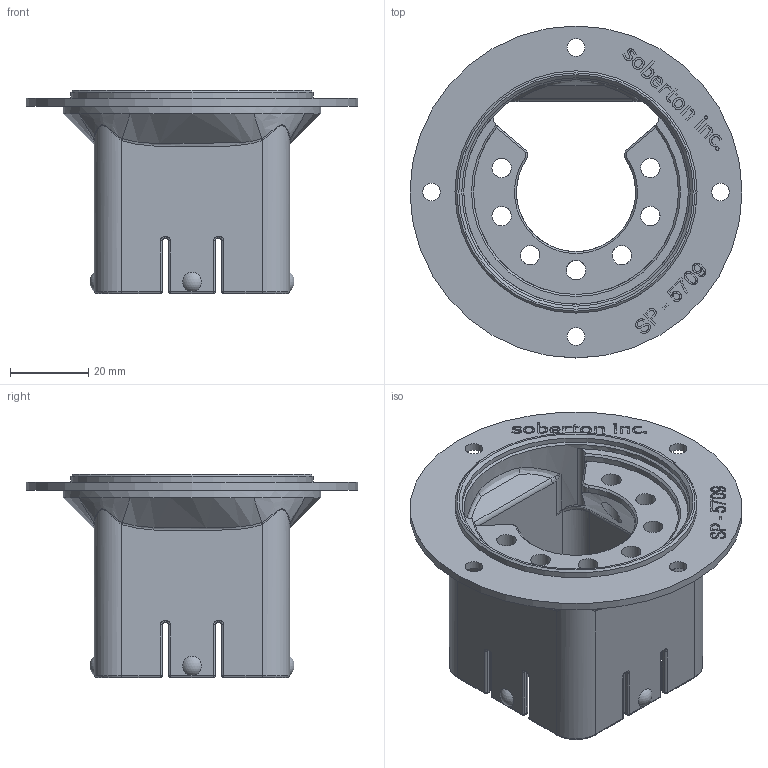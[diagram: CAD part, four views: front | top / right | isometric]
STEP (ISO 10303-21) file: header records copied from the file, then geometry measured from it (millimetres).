
FILE_DESCRIPTION(/* description */ ('Alibre Inc.'),/* implementation_level */ '2;1');
FILE_NAME(/* name */ 'export-377A5EF0-56CE-44FA-9FC2-389EE92E42DE',/* time_stamp */ '2020-09-30T17:52:55-05:00',/* author */ (''),/* organization */ (''),/* preprocessor_version */ 'ST-DEVELOPER v17',/* originating_system */ 'Alibre',/* authorisation */ '');
FILE_SCHEMA (('AUTOMOTIVE_DESIGN'));
Length unit declared in the file: millimetre
Bounding box: 85 x 85 x 52 mm (x, y, z)
Volume: 35921.9 mm3; surface area: 26957.2 mm2
Topology: 1 solids, 3 shells, 695 faces, 1836 edges, 1145 vertices
Faces by surface type: bspline 318, plane 162, cylinder 136, sphere 36, torus 36, cone 7
Full cylindrical faces by diameter (mm): 0.649 x1, 1.055 x1, 4.5 x4, 5 x7, 57.5 x1, 58.5 x1, 62 x1, 66 x1, 85 x1
Entity records: 33128 total; most frequent: CARTESIAN_POINT 18560, ORIENTED_EDGE 3532, DIRECTION 1965, EDGE_CURVE 1766, VERTEX_POINT 1130, VECTOR 774, LINE 774, EDGE_LOOP 772
